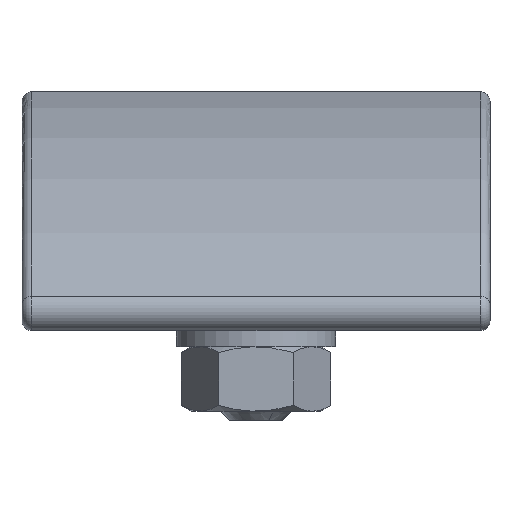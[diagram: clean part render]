
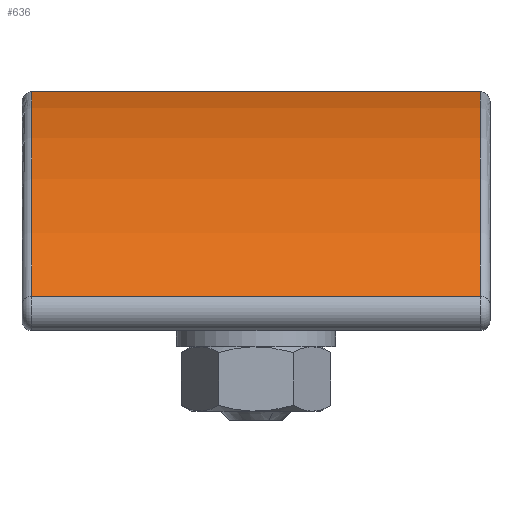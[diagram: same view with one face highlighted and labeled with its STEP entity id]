
A CAD part, front view. The second image highlights one B-rep face of the part: STEP entity #636.
In plain terms, the highlighted cylindrical face has radius 75 mm (diameter 150 mm), a partial arc.
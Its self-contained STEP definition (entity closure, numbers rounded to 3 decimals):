
#463=CARTESIAN_POINT('Vertex',(-22.5,-44.386,3.441)) ;
#514=CARTESIAN_POINT('Axis2P3D Location',(-22.5,7.605,-50.613)) ;
#518=CARTESIAN_POINT('Vertex',(-22.5,0.,24.)) ;
#587=CARTESIAN_POINT('Line Origine',(0.,-44.386,3.441)) ;
#591=CARTESIAN_POINT('Vertex',(22.5,-44.386,3.441)) ;
#613=CARTESIAN_POINT('Axis2P3D Location',(0.,7.605,-50.613)) ;
#618=CARTESIAN_POINT('Line Origine',(0.,0.,24.)) ;
#622=CARTESIAN_POINT('Vertex',(22.5,0.,24.)) ;
#625=CARTESIAN_POINT('Axis2P3D Location',(22.5,7.605,-50.613)) ;
#515=DIRECTION('Axis2P3D Direction',(1.,0.,0.)) ;
#588=DIRECTION('Vector Direction',(1.,0.,0.)) ;
#614=DIRECTION('Axis2P3D Direction',(1.,0.,0.)) ;
#615=DIRECTION('Axis2P3D XDirection',(0.,-0.101,0.995)) ;
#619=DIRECTION('Vector Direction',(1.,0.,0.)) ;
#626=DIRECTION('Axis2P3D Direction',(1.,0.,0.)) ;
#516=AXIS2_PLACEMENT_3D('Circle Axis2P3D',#514,#515,$) ;
#616=AXIS2_PLACEMENT_3D('Cylinder Axis2P3D',#613,#614,#615) ;
#627=AXIS2_PLACEMENT_3D('Circle Axis2P3D',#625,#626,$) ;
#631=ORIENTED_EDGE('',*,*,#624,.F.) ;
#632=ORIENTED_EDGE('',*,*,#520,.T.) ;
#633=ORIENTED_EDGE('',*,*,#593,.T.) ;
#634=ORIENTED_EDGE('',*,*,#629,.F.) ;
#589=VECTOR('Line Direction',#588,1.) ;
#620=VECTOR('Line Direction',#619,1.) ;
#636=ADVANCED_FACE('PartBody',(#635),#617,.T.) ;
#517=CIRCLE('generated circle',#516,75.) ;
#628=CIRCLE('generated circle',#627,75.) ;
#617=CYLINDRICAL_SURFACE('generated cylinder',#616,75.) ;
#520=EDGE_CURVE('',#519,#464,#517,.T.) ;
#593=EDGE_CURVE('',#464,#592,#590,.T.) ;
#624=EDGE_CURVE('',#519,#623,#621,.T.) ;
#629=EDGE_CURVE('',#623,#592,#628,.T.) ;
#630=EDGE_LOOP('',(#631,#632,#633,#634)) ;
#635=FACE_OUTER_BOUND('',#630,.T.) ;
#590=LINE('Line',#587,#589) ;
#621=LINE('Line',#618,#620) ;
#464=VERTEX_POINT('',#463) ;
#519=VERTEX_POINT('',#518) ;
#592=VERTEX_POINT('',#591) ;
#623=VERTEX_POINT('',#622) ;
